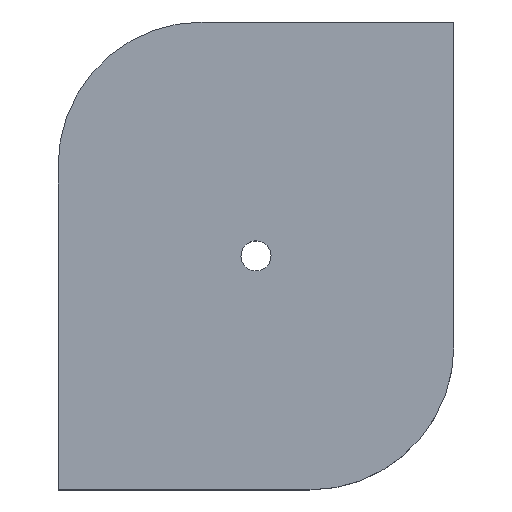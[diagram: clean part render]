
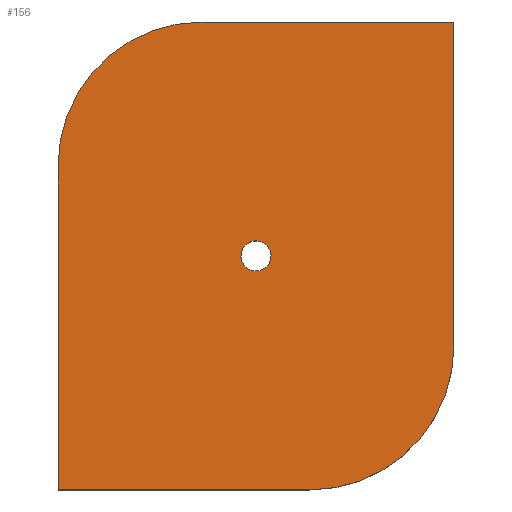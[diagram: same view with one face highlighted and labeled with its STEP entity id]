
A CAD part, top view. The second image highlights one B-rep face of the part: STEP entity #156.
In plain terms, the highlighted planar face has unit normal (0, 0, 1).
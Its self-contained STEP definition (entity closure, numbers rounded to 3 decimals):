
#63=CARTESIAN_POINT('Vertex',(51.325,67.008,25.)) ;
#77=CARTESIAN_POINT('Vertex',(58.675,62.992,25.)) ;
#80=CARTESIAN_POINT('Axis2P3D Location',(55.,65.,25.)) ;
#92=CARTESIAN_POINT('Axis2P3D Location',(0.,0.,25.)) ;
#97=CARTESIAN_POINT('Line Origine',(0.,45.,25.)) ;
#101=CARTESIAN_POINT('Vertex',(0.,90.,25.)) ;
#103=CARTESIAN_POINT('Vertex',(0.,0.,25.)) ;
#106=CARTESIAN_POINT('Line Origine',(35.,0.,25.)) ;
#110=CARTESIAN_POINT('Vertex',(70.,0.,25.)) ;
#113=CARTESIAN_POINT('Axis2P3D Location',(70.,40.,25.)) ;
#117=CARTESIAN_POINT('Vertex',(110.,40.,25.)) ;
#120=CARTESIAN_POINT('Line Origine',(110.,85.,25.)) ;
#124=CARTESIAN_POINT('Vertex',(110.,130.,25.)) ;
#127=CARTESIAN_POINT('Line Origine',(75.,130.,25.)) ;
#131=CARTESIAN_POINT('Vertex',(40.,130.,25.)) ;
#134=CARTESIAN_POINT('Axis2P3D Location',(40.,90.,25.)) ;
#147=CARTESIAN_POINT('Axis2P3D Location',(55.,65.,25.)) ;
#81=DIRECTION('Axis2P3D Direction',(0.,-0.,-1.)) ;
#93=DIRECTION('Axis2P3D Direction',(0.,0.,1.)) ;
#94=DIRECTION('Axis2P3D XDirection',(1.,0.,0.)) ;
#98=DIRECTION('Vector Direction',(0.,-1.,0.)) ;
#107=DIRECTION('Vector Direction',(1.,0.,0.)) ;
#114=DIRECTION('Axis2P3D Direction',(0.,0.,1.)) ;
#121=DIRECTION('Vector Direction',(0.,1.,0.)) ;
#128=DIRECTION('Vector Direction',(-1.,0.,0.)) ;
#135=DIRECTION('Axis2P3D Direction',(0.,0.,1.)) ;
#148=DIRECTION('Axis2P3D Direction',(0.,0.,1.)) ;
#82=AXIS2_PLACEMENT_3D('Circle Axis2P3D',#80,#81,$) ;
#95=AXIS2_PLACEMENT_3D('Plane Axis2P3D',#92,#93,#94) ;
#115=AXIS2_PLACEMENT_3D('Circle Axis2P3D',#113,#114,$) ;
#136=AXIS2_PLACEMENT_3D('Circle Axis2P3D',#134,#135,$) ;
#149=AXIS2_PLACEMENT_3D('Circle Axis2P3D',#147,#148,$) ;
#140=ORIENTED_EDGE('',*,*,#105,.T.) ;
#141=ORIENTED_EDGE('',*,*,#112,.T.) ;
#142=ORIENTED_EDGE('',*,*,#119,.F.) ;
#143=ORIENTED_EDGE('',*,*,#126,.T.) ;
#144=ORIENTED_EDGE('',*,*,#133,.T.) ;
#145=ORIENTED_EDGE('',*,*,#138,.F.) ;
#153=ORIENTED_EDGE('',*,*,#151,.F.) ;
#154=ORIENTED_EDGE('',*,*,#84,.F.) ;
#155=FACE_BOUND('',#152,.T.) ;
#99=VECTOR('Line Direction',#98,1.) ;
#108=VECTOR('Line Direction',#107,1.) ;
#122=VECTOR('Line Direction',#121,1.) ;
#129=VECTOR('Line Direction',#128,1.) ;
#156=ADVANCED_FACE('PartBody',(#146,#155),#96,.T.) ;
#83=CIRCLE('generated circle',#82,4.188) ;
#116=CIRCLE('generated circle',#115,40.) ;
#137=CIRCLE('generated circle',#136,40.) ;
#150=CIRCLE('generated circle',#149,4.188) ;
#84=EDGE_CURVE('',#78,#64,#83,.F.) ;
#105=EDGE_CURVE('',#102,#104,#100,.T.) ;
#112=EDGE_CURVE('',#104,#111,#109,.T.) ;
#119=EDGE_CURVE('',#118,#111,#116,.F.) ;
#126=EDGE_CURVE('',#118,#125,#123,.T.) ;
#133=EDGE_CURVE('',#125,#132,#130,.T.) ;
#138=EDGE_CURVE('',#102,#132,#137,.F.) ;
#151=EDGE_CURVE('',#64,#78,#150,.T.) ;
#139=EDGE_LOOP('',(#140,#141,#142,#143,#144,#145)) ;
#152=EDGE_LOOP('',(#153,#154)) ;
#146=FACE_OUTER_BOUND('',#139,.T.) ;
#100=LINE('Line',#97,#99) ;
#109=LINE('Line',#106,#108) ;
#123=LINE('Line',#120,#122) ;
#130=LINE('Line',#127,#129) ;
#96=PLANE('',#95) ;
#64=VERTEX_POINT('',#63) ;
#78=VERTEX_POINT('',#77) ;
#102=VERTEX_POINT('',#101) ;
#104=VERTEX_POINT('',#103) ;
#111=VERTEX_POINT('',#110) ;
#118=VERTEX_POINT('',#117) ;
#125=VERTEX_POINT('',#124) ;
#132=VERTEX_POINT('',#131) ;
